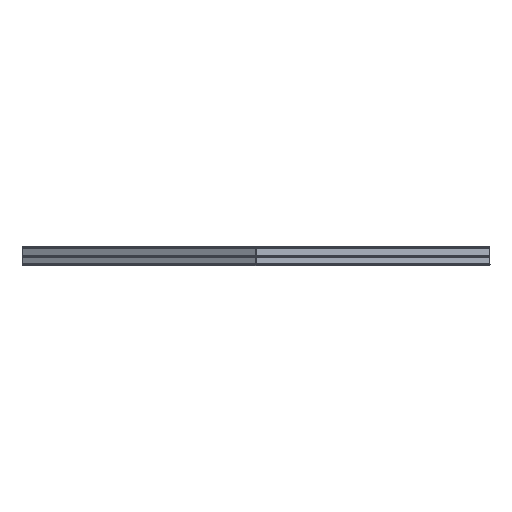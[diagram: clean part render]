
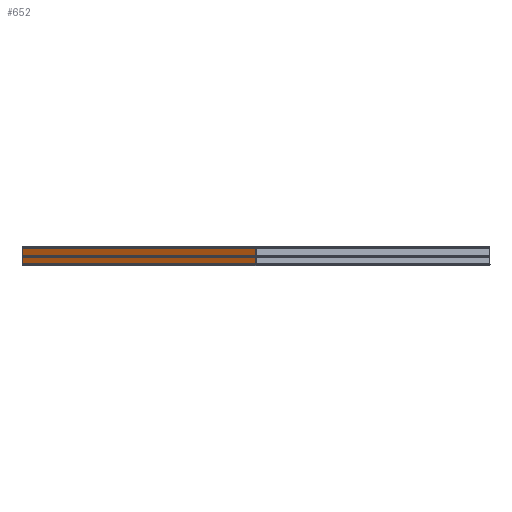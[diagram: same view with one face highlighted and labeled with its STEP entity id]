
A CAD part, top view. The second image highlights one B-rep face of the part: STEP entity #652.
In plain terms, the highlighted planar face has unit normal (-0.5, 0, 0.866) as drawn and (-1, 0, 0) by its records, which use the part's own axes.
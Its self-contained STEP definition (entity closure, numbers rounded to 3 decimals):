
#652=ADVANCED_FACE('',(#2424),#2426,.T.);
#2424=FACE_BOUND('',#2425,.T.);
#2425=EDGE_LOOP('',(#5204,#5205,#5206,#5207));
#2426=PLANE('',#2427);
#2427=AXIS2_PLACEMENT_3D('',#2428,#2429,#2430);
#2428=CARTESIAN_POINT('',(-25.,4.,-521.));
#2429=DIRECTION('',(-1.,0.,0.));
#2430=DIRECTION('',(0.,-1.,0.));
#5204=ORIENTED_EDGE('',*,*,#6781,.T.);
#5205=ORIENTED_EDGE('',*,*,#6972,.T.);
#5206=ORIENTED_EDGE('',*,*,#6973,.T.);
#5207=ORIENTED_EDGE('',*,*,#6974,.F.);
#6781=EDGE_CURVE('',#8379,#8376,#8380,.F.);
#6972=EDGE_CURVE('',#8376,#8758,#8760,.T.);
#6973=EDGE_CURVE('',#8758,#8761,#8762,.F.);
#6974=EDGE_CURVE('',#8379,#8761,#8763,.T.);
#8376=VERTEX_POINT('',#11890);
#8379=VERTEX_POINT('',#11896);
#8380=LINE('',#11897,#11898);
#8758=VERTEX_POINT('',#12774);
#8760=LINE('',#12779,#12780);
#8761=VERTEX_POINT('',#12782);
#8762=LINE('',#12783,#12784);
#8763=LINE('',#12786,#12787);
#11890=CARTESIAN_POINT('',(-25.,-63.75,-521.));
#11896=CARTESIAN_POINT('',(-25.,4.,-521.));
#11897=CARTESIAN_POINT('',(-25.,-63.75,-521.));
#11898=VECTOR('',#11899,1.);
#11899=DIRECTION('',(0.,1.,0.));
#12774=CARTESIAN_POINT('',(-25.,-63.75,521.));
#12779=CARTESIAN_POINT('',(-25.,-63.75,-521.));
#12780=VECTOR('',#12781,1.);
#12781=DIRECTION('',(0.,0.,1.));
#12782=CARTESIAN_POINT('',(-25.,4.,521.));
#12783=CARTESIAN_POINT('',(-25.,4.,521.));
#12784=VECTOR('',#12785,1.);
#12785=DIRECTION('',(0.,-1.,0.));
#12786=CARTESIAN_POINT('',(-25.,4.,-521.));
#12787=VECTOR('',#12788,1.);
#12788=DIRECTION('',(0.,0.,1.));
